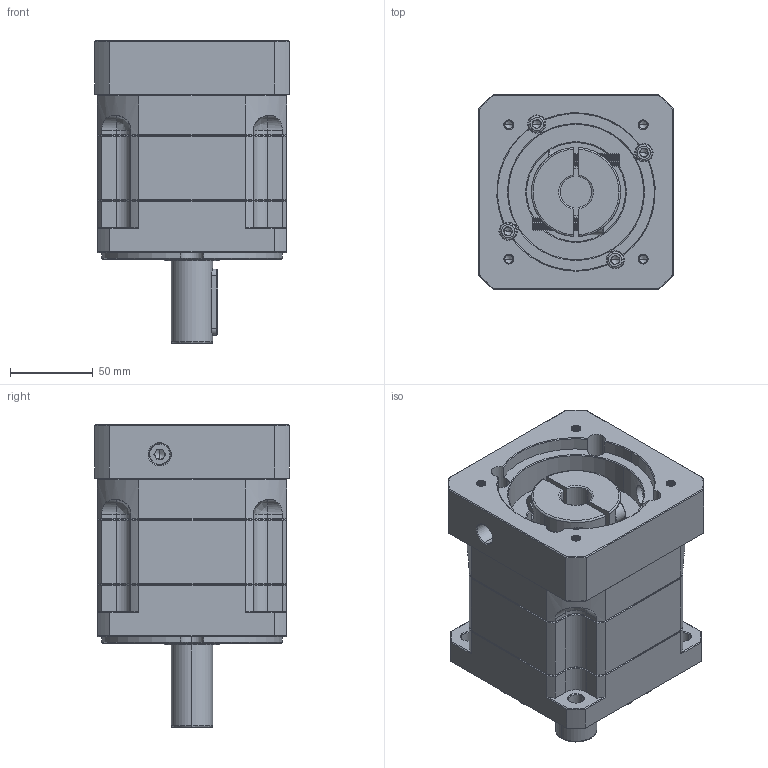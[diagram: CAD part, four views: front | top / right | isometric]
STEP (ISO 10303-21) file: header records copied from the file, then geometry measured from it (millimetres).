
FILE_DESCRIPTION (( 'STEP AP214' ), '1' );
FILE_NAME ('ZB115A-D25-L1-P2-19-95-115-M6.step', '2023-08-26T06:20:58', ( '' ), ( '' ), 'SwSTEP 2.0', 'SolidWorks 2016', '' );
FILE_SCHEMA (( 'AUTOMOTIVE_DESIGN' ));
Length unit declared in the file: millimetre
Products named in the file (1): ZB115A-D25-L1-P2-19-95-115-M6
Bounding box: 118 x 118 x 183.5 mm (x, y, z)
Volume: 1466425.4 mm3; surface area: 161234.1 mm2
Topology: 6 solids, 6 shells, 2382 faces, 6284 edges, 3998 vertices
Faces by surface type: plane 1144, bspline 443, cylinder 412, cone 383
Entity records: 126377 total; most frequent: CARTESIAN_POINT 44716, ORIENTED_EDGE 12500, DIRECTION 9944, EDGE_CURVE 6250, VERTEX_POINT 3998, LINE 3984, VECTOR 3984, AXIS2_PLACEMENT_3D 2980
